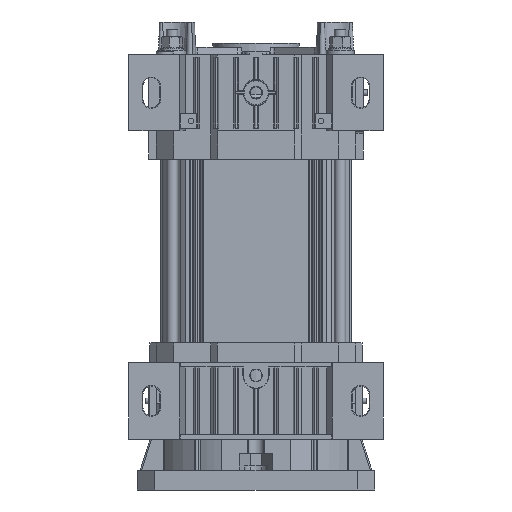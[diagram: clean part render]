
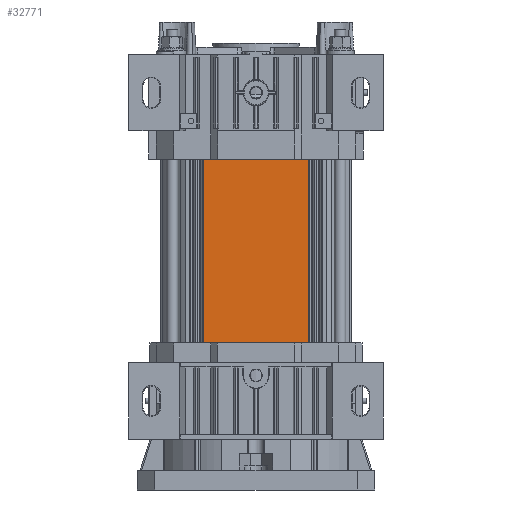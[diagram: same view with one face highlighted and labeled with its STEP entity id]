
A CAD part, front view. The second image highlights one B-rep face of the part: STEP entity #32771.
In plain terms, the highlighted planar face has unit normal (0, -1, 0).
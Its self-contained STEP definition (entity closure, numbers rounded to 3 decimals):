
#3593=LINE('',#57888,#6555);
#3829=LINE('',#58631,#6791);
#3830=LINE('',#58634,#6792);
#3831=LINE('',#58635,#6793);
#6555=VECTOR('',#44771,10.);
#6791=VECTOR('',#45525,10.);
#6792=VECTOR('',#45530,10.);
#6793=VECTOR('',#45531,10.);
#7784=PLANE('',#36105);
#9716=FACE_OUTER_BOUND('',#11657,.T.);
#11657=EDGE_LOOP('',(#30253,#30254,#30255,#30256));
#15997=VERTEX_POINT('',#57881);
#16000=VERTEX_POINT('',#57886);
#16247=VERTEX_POINT('',#58628);
#16248=VERTEX_POINT('',#58630);
#20638=EDGE_CURVE('',#16000,#15997,#3593,.T.);
#21009=EDGE_CURVE('',#16248,#16247,#3829,.T.);
#21011=EDGE_CURVE('',#16247,#15997,#3830,.T.);
#21012=EDGE_CURVE('',#16000,#16248,#3831,.T.);
#30253=ORIENTED_EDGE('',*,*,#21011,.T.);
#30254=ORIENTED_EDGE('',*,*,#20638,.F.);
#30255=ORIENTED_EDGE('',*,*,#21012,.T.);
#30256=ORIENTED_EDGE('',*,*,#21009,.T.);
#32771=ADVANCED_FACE('',(#9716),#7784,.T.);
#36105=AXIS2_PLACEMENT_3D('',#58633,#45528,#45529);
#44771=DIRECTION('',(0.,0.,1.));
#45525=DIRECTION('',(0.,0.,1.));
#45528=DIRECTION('center_axis',(0.,-1.,0.));
#45529=DIRECTION('ref_axis',(0.,0.,-1.));
#45530=DIRECTION('',(-1.,0.,0.));
#45531=DIRECTION('',(1.,0.,0.));
#57881=CARTESIAN_POINT('',(6506.45,-1976.3,140.));
#57886=CARTESIAN_POINT('',(6506.45,-1976.3,0.));
#57888=CARTESIAN_POINT('',(6506.45,-1976.3,0.));
#58628=CARTESIAN_POINT('',(6580.572,-1976.3,140.));
#58630=CARTESIAN_POINT('',(6580.572,-1976.3,0.));
#58631=CARTESIAN_POINT('',(6580.572,-1976.3,0.));
#58633=CARTESIAN_POINT('Origin',(6580.572,-1976.3,0.));
#58634=CARTESIAN_POINT('',(6506.45,-1976.3,140.));
#58635=CARTESIAN_POINT('',(6506.45,-1976.3,0.));
